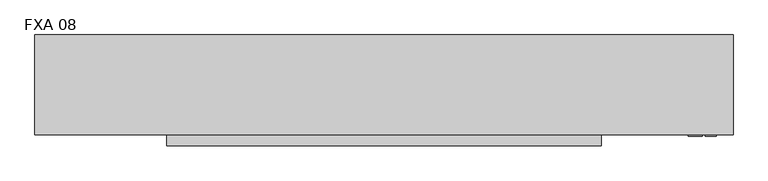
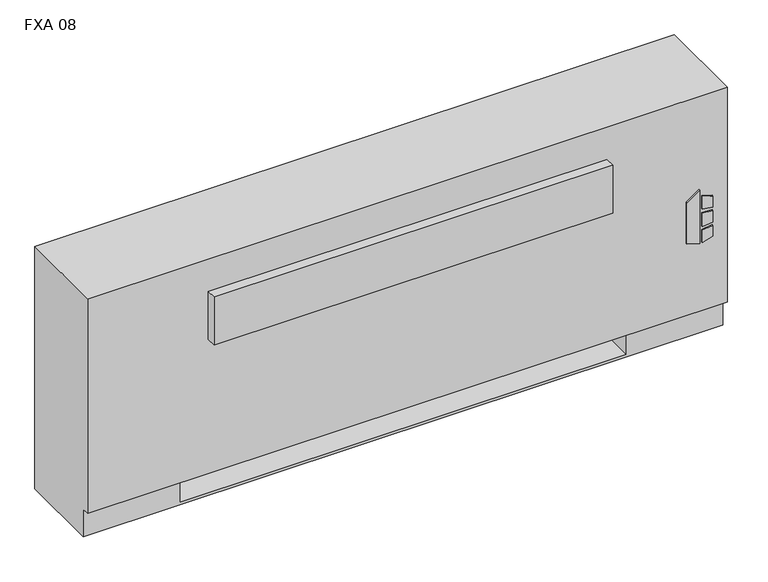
"""IFC4 building model written with IfcOpenShell, lengths in millimetres: proxy geometry, Vertical_Fan_Coil_Unit_-_FXA_-_IEC_-_2-Pipe_FS-FR_LH_2022 : FXA 08."""

from ifc_helpers import new_model, si_unit, point, frame, frame_2d, origin, place, context, project, spatial, polyline, circle_curve, trimmed, segment, composite_curve, outline, extrude, source, transform, mapped, element, save
from ifc_brep_helpers import plane_surface, revolved_surface, advanced_brep


def fxa_08_6734b92f(model_context):
    return source(origin(), model_context, "Body", "SolidModel", [
        extrude(outline(polyline([(263.9480703, 849.3868862), (254.0, 881.5602728), (396.1709244, 881.5602728), (373.1489183, 849.3868862), (263.9480703, 849.3868862)])), frame((0.0, 12.7, 0.0), z_axis=(0.0, 1.0, 0.0), x_axis=(0.0, 0.0, 1.0)), (0.0, 0.0, 1.0), 3.175),
        extrude(outline(polyline([(342.9473557, 888.3186058), (339.7449632, 914.4), (368.9738042, 914.4), (377.0382193, 888.3186058), (342.9473557, 888.3186058)])), frame((0.0, 12.7, 0.0), z_axis=(0.0, 1.0, 0.0), x_axis=(0.0, 0.0, 1.0)), (0.0, 0.0, 1.0), 3.175),
        extrude(outline(polyline([(291.0838288, 914.4), (287.4183279, 888.3186058), (254.0, 888.3186058), (262.6342372, 914.4), (291.0838288, 914.4)])), frame((0.0, 12.7, 0.0), z_axis=(0.0, 1.0, 0.0), x_axis=(0.0, 0.0, 1.0)), (0.0, 0.0, 1.0), 3.175),
        extrude(outline(polyline([(330.3989903, 914.4), (332.6808166, 888.3186058), (296.7432681, 888.3186058), (299.4845331, 914.4), (330.3989903, 914.4)])), frame((0.0, 12.7, 0.0), z_axis=(0.0, 1.0, 0.0), x_axis=(0.0, 0.0, 1.0)), (0.0, 0.0, 1.0), 3.175),
        extrude(outline(polyline([(831.85, 223.266), (831.85, 81.534), (711.2, 81.534), (711.2, 223.266), (831.85, 223.266)])), frame((0.0, 0.0, 327.025), z_axis=(0.0, 0.0, 1.0), x_axis=(1.0, 0.0, 0.0)), (0.0, 0.0, 1.0), 260.35),
        extrude(outline(composite_curve([segment(trimmed(circle_curve(frame_2d((-469.9, 130.175)), 9.525), [point((-479.425, 130.175))], [point((-460.375, 130.175))], False, "CARTESIAN"), True, "CONTINUOUS"), segment(trimmed(circle_curve(frame_2d((-469.9, 130.175)), 9.525), [point((-460.375, 130.175))], [point((-479.425, 130.175))], False, "CARTESIAN"), True, "CONTINUOUS")], self_intersect=False)), frame((0.0, 0.0, 101.6), z_axis=(0.0, 0.0, 1.0), x_axis=(1.0, 0.0, 0.0)), (0.0, 0.0, 1.0), 25.4),
        extrude(outline(polyline([(-571.5, 63.5), (-571.5, 196.85), (-406.4, 196.85), (-406.4, 63.5), (-571.5, 63.5)])), frame((0.0, 0.0, 127.0), z_axis=(0.0, 0.0, 1.0), x_axis=(1.0, 0.0, 0.0)), (0.0, 0.0, 1.0), 50.8),
        extrude(outline(polyline([(650.875, -9.525), (-346.075, -9.525), (-346.075, 15.875), (650.875, 15.875), (650.875, -9.525)])), frame((0.0, 0.0, 428.625), z_axis=(0.0, 0.0, 1.0), x_axis=(1.0, 0.0, 0.0)), (0.0, 0.0, 1.0), 127.0),
        extrude(outline(composite_curve([segment(trimmed(circle_curve(frame_2d((93.1926, 485.5972)), 7.9375), [point((93.1926, 493.5347))], [point((93.1926, 477.6597))], False, "CARTESIAN"), True, "CONTINUOUS"), segment(trimmed(circle_curve(frame_2d((93.1926, 485.5972)), 7.9375), [point((93.1926, 477.6597))], [point((93.1926, 493.5347))], False, "CARTESIAN"), True, "CONTINUOUS")], self_intersect=False)), frame((-457.2, 0.0, 0.0), z_axis=(1.0, 0.0, 0.0), x_axis=(0.0, 1.0, 0.0)), (0.0, 0.0, 1.0), 50.8),
        extrude(outline(composite_curve([segment(trimmed(circle_curve(frame_2d((141.3002, 458.9526)), 7.9375), [point((141.3002, 466.8901))], [point((141.3002, 451.0151))], False, "CARTESIAN"), True, "CONTINUOUS"), segment(trimmed(circle_curve(frame_2d((141.3002, 458.9526)), 7.9375), [point((141.3002, 451.0151))], [point((141.3002, 466.8901))], False, "CARTESIAN"), True, "CONTINUOUS")], self_intersect=False)), frame((-457.2, 0.0, 0.0), z_axis=(1.0, 0.0, 0.0), x_axis=(0.0, 1.0, 0.0)), (0.0, 0.0, 1.0), 50.8),
        advanced_brep(
        [(952.5, 244.475, 641.35), (-647.7, 244.475, 641.35), (-647.7, 15.875, 641.35), (952.5, 15.875, 641.35), (-647.7, 244.475, 0.0), (952.5, 244.475, 0.0), (952.5, 34.925, 0.0), (-647.7, 34.925, 0.0), (711.2, 244.475, 73.025), (939.8, 244.475, 73.025), (939.8, 244.475, 628.65), (711.2, 244.475, 628.65), (711.2, 244.475, 414.8650565), (739.775, 244.475, 414.8650565), (739.775, 244.475, 385.2349435), (711.2, 244.475, 385.2349435), (711.2, 244.475, 287.3375), (739.775, 244.475, 287.3375), (739.775, 244.475, 258.7625), (711.2, 244.475, 258.7625), (711.2, 244.475, 141.2875), (739.775, 244.475, 141.2875), (739.775, 244.475, 112.7125), (711.2, 244.475, 112.7125), (-406.4, 244.475, 628.65), (-635.0, 244.475, 628.65), (-635.0, 244.475, 73.025), (-406.4, 244.475, 73.025), (-406.4, 244.475, 112.7125), (-434.975, 244.475, 112.7125), (-434.975, 244.475, 141.2875), (-406.4, 244.475, 141.2875), (-406.4, 244.475, 258.7625), (-434.975, 244.475, 258.7625), (-434.975, 244.475, 287.3375), (-406.4, 244.475, 287.3375), (-406.4, 244.475, 385.2349435), (-434.975, 244.475, 385.2349435), (-434.975, 244.475, 414.8650565), (-406.4, 244.475, 414.8650565), (729.4626, 244.475, 127.0), (718.3374, 244.475, 127.0), (729.4626, 244.475, 400.05), (718.3374, 244.475, 400.05), (729.4626, 244.475, 273.05), (718.3374, 244.475, 273.05), (-413.5374, 244.475, 127.0), (-424.6626, 244.475, 127.0), (-413.5374, 244.475, 273.05), (-424.6626, 244.475, 273.05), (-413.5374, 244.475, 400.05), (-424.6626, 244.475, 400.05), (-647.7, 34.925, 73.025), (-647.7, 15.875, 73.025), (952.5, 15.875, 73.025), (952.5, 34.925, 73.025), (-406.4, 34.925, 73.025), (-406.4, 219.075, 73.025), (711.2, 219.075, 73.025), (711.2, 34.925, 73.025), (711.2, 34.925, 6.35), (-406.4, 34.925, 6.35), (711.2, 41.275, 628.65), (939.8, 41.275, 628.65), (939.8, 41.275, 73.025), (711.2, 41.275, 73.025), (-406.4, 41.275, 628.65), (-406.4, 41.275, 73.025), (-635.0, 41.275, 73.025), (-635.0, 41.275, 628.65), (711.2, 219.075, 73.025), (711.2, 238.125, 112.7125), (711.2, 238.125, 141.2875), (711.2, 238.125, 258.7625), (711.2, 238.125, 287.3375), (711.2, 238.125, 385.2349435), (711.2, 238.125, 414.8650565), (-406.4, 219.075, 73.025), (-406.4, 238.125, 414.8650565), (-406.4, 238.125, 385.2349435), (-406.4, 238.125, 287.3375), (-406.4, 238.125, 258.7625), (-406.4, 238.125, 141.2875), (-406.4, 238.125, 112.7125), (-406.4, 219.075, 6.35), (711.2, 219.075, 6.35), (739.775, 238.125, 112.7125), (739.775, 238.125, 141.2875), (718.3374, 238.125, 127.0), (729.4626, 238.125, 127.0), (739.775, 238.125, 258.7625), (739.775, 238.125, 287.3375), (718.3374, 238.125, 273.05), (729.4626, 238.125, 273.05), (739.775, 238.125, 385.2349435), (739.775, 238.125, 414.8650565), (718.3374, 238.125, 400.05), (729.4626, 238.125, 400.05), (-434.975, 238.125, 141.2875), (-434.975, 238.125, 112.7125), (-424.6626, 238.125, 127.0), (-413.5374, 238.125, 127.0), (-434.975, 238.125, 287.3375), (-434.975, 238.125, 258.7625), (-424.6626, 238.125, 273.05), (-413.5374, 238.125, 273.05), (-434.975, 238.125, 414.8650565), (-434.975, 238.125, 385.2349435), (-424.6626, 238.125, 400.05), (-413.5374, 238.125, 400.05)],
        [
            (0, 1),
            (1, 2),
            (2, 3),
            (3, 0),
            (4, 5),
            (5, 6),
            (6, 7),
            (7, 4),
            (0, 5),
            (4, 1),
            (8, 9),
            (9, 10),
            (10, 11),
            (11, 12),
            (12, 13),
            (13, 14),
            (14, 15),
            (15, 16),
            (16, 17),
            (17, 18),
            (18, 19),
            (19, 20),
            (20, 21),
            (21, 22),
            (22, 23),
            (23, 8),
            (24, 25),
            (25, 26),
            (26, 27),
            (27, 28),
            (28, 29),
            (29, 30),
            (30, 31),
            (31, 32),
            (32, 33),
            (33, 34),
            (34, 35),
            (35, 36),
            (36, 37),
            (37, 38),
            (38, 39),
            (39, 24),
            (40, 41, circle_curve(frame((723.9, 244.475, 127.0), z_axis=(0.0, -1.0, 0.0), x_axis=(-1.0, 0.0, 0.0)), 5.5626)),
            (41, 40, circle_curve(frame((723.9, 244.475, 127.0), z_axis=(0.0, -1.0, 0.0), x_axis=(-1.0, 0.0, 0.0)), 5.5626)),
            (42, 43, circle_curve(frame((723.9, 244.475, 400.05), z_axis=(0.0, -1.0, 0.0), x_axis=(-1.0, 0.0, 0.0)), 5.5626)),
            (43, 42, circle_curve(frame((723.9, 244.475, 400.05), z_axis=(0.0, -1.0, 0.0), x_axis=(-1.0, 0.0, 0.0)), 5.5626)),
            (44, 45, circle_curve(frame((723.9, 244.475, 273.05), z_axis=(0.0, -1.0, 0.0), x_axis=(-1.0, 0.0, 0.0)), 5.5626)),
            (45, 44, circle_curve(frame((723.9, 244.475, 273.05), z_axis=(0.0, -1.0, 0.0), x_axis=(-1.0, 0.0, 0.0)), 5.5626)),
            (46, 47, circle_curve(frame((-419.1, 244.475, 127.0), z_axis=(0.0, -1.0, 0.0), x_axis=(-1.0, 0.0, 0.0)), 5.5626)),
            (47, 46, circle_curve(frame((-419.1, 244.475, 127.0), z_axis=(0.0, -1.0, 0.0), x_axis=(-1.0, 0.0, 0.0)), 5.5626)),
            (48, 49, circle_curve(frame((-419.1, 244.475, 273.05), z_axis=(0.0, -1.0, 0.0), x_axis=(-1.0, 0.0, 0.0)), 5.5626)),
            (49, 48, circle_curve(frame((-419.1, 244.475, 273.05), z_axis=(0.0, -1.0, 0.0), x_axis=(-1.0, 0.0, 0.0)), 5.5626)),
            (50, 51, circle_curve(frame((-419.1, 244.475, 400.05), z_axis=(0.0, -1.0, 0.0), x_axis=(-1.0, 0.0, 0.0)), 5.5626)),
            (51, 50, circle_curve(frame((-419.1, 244.475, 400.05), z_axis=(0.0, -1.0, 0.0), x_axis=(-1.0, 0.0, 0.0)), 5.5626)),
            (7, 52),
            (52, 53),
            (53, 2),
            (53, 54),
            (54, 3),
            (54, 55),
            (55, 6),
            (52, 56),
            (56, 57),
            (57, 58),
            (58, 59),
            (59, 55),
            (59, 60),
            (60, 61),
            (61, 56),
            (62, 63),
            (63, 64),
            (64, 65),
            (65, 62),
            (66, 67),
            (67, 68),
            (68, 69),
            (69, 66),
            (65, 70),
            (70, 8),
            (23, 71),
            (71, 72),
            (72, 20),
            (19, 73),
            (73, 74),
            (74, 16),
            (15, 75),
            (75, 76),
            (76, 12),
            (11, 62),
            (64, 9),
            (63, 10),
            (69, 25),
            (24, 66),
            (68, 26),
            (67, 77),
            (77, 27),
            (39, 78),
            (78, 79),
            (79, 36),
            (35, 80),
            (80, 81),
            (81, 32),
            (31, 82),
            (82, 83),
            (83, 28),
            (57, 84),
            (84, 85),
            (85, 58),
            (85, 60),
            (84, 61),
            (71, 86),
            (86, 87),
            (87, 72),
            (88, 89, circle_curve(frame((723.9, 238.125, 127.0), z_axis=(0.0, 1.0, 0.0), x_axis=(-1.0, 0.0, 0.0)), 5.5626)),
            (89, 88, circle_curve(frame((723.9, 238.125, 127.0), z_axis=(0.0, 1.0, 0.0), x_axis=(-1.0, 0.0, 0.0)), 5.5626)),
            (73, 90),
            (90, 91),
            (91, 74),
            (92, 93, circle_curve(frame((723.9, 238.125, 273.05), z_axis=(0.0, 1.0, 0.0), x_axis=(-1.0, 0.0, 0.0)), 5.5626)),
            (93, 92, circle_curve(frame((723.9, 238.125, 273.05), z_axis=(0.0, 1.0, 0.0), x_axis=(-1.0, 0.0, 0.0)), 5.5626)),
            (75, 94),
            (94, 95),
            (95, 76),
            (96, 97, circle_curve(frame((723.9, 238.125, 400.05), z_axis=(0.0, 1.0, 0.0), x_axis=(-1.0, 0.0, 0.0)), 5.5626)),
            (97, 96, circle_curve(frame((723.9, 238.125, 400.05), z_axis=(0.0, 1.0, 0.0), x_axis=(-1.0, 0.0, 0.0)), 5.5626)),
            (98, 99),
            (99, 83),
            (82, 98),
            (100, 101, circle_curve(frame((-419.1, 238.125, 127.0), z_axis=(0.0, 1.0, 0.0), x_axis=(-1.0, 0.0, 0.0)), 5.5626)),
            (101, 100, circle_curve(frame((-419.1, 238.125, 127.0), z_axis=(0.0, 1.0, 0.0), x_axis=(-1.0, 0.0, 0.0)), 5.5626)),
            (102, 103),
            (103, 81),
            (80, 102),
            (104, 105, circle_curve(frame((-419.1, 238.125, 273.05), z_axis=(0.0, 1.0, 0.0), x_axis=(-1.0, 0.0, 0.0)), 5.5626)),
            (105, 104, circle_curve(frame((-419.1, 238.125, 273.05), z_axis=(0.0, 1.0, 0.0), x_axis=(-1.0, 0.0, 0.0)), 5.5626)),
            (106, 107),
            (107, 79),
            (78, 106),
            (108, 109, circle_curve(frame((-419.1, 238.125, 400.05), z_axis=(0.0, 1.0, 0.0), x_axis=(-1.0, 0.0, 0.0)), 5.5626)),
            (109, 108, circle_curve(frame((-419.1, 238.125, 400.05), z_axis=(0.0, 1.0, 0.0), x_axis=(-1.0, 0.0, 0.0)), 5.5626)),
            (87, 21),
            (86, 22),
            (91, 17),
            (90, 18),
            (95, 13),
            (94, 14),
            (30, 98),
            (99, 29),
            (34, 102),
            (103, 33),
            (38, 106),
            (107, 37),
            (88, 41),
            (40, 89),
            (96, 43),
            (42, 97),
            (92, 45),
            (44, 93),
            (100, 47),
            (46, 101),
            (104, 49),
            (48, 105),
            (108, 51),
            (50, 109),
        ],
        [
            plane_surface(frame((-647.7, 244.475, 641.35), z_axis=(0.0, 0.0, 1.0), x_axis=(-1.0, 0.0, 0.0))),
            plane_surface(frame((-647.7, 244.475, 0.0), z_axis=(0.0, 0.0, -1.0), x_axis=(1.0, 0.0, 0.0))),
            plane_surface(frame((952.5, 244.475, 641.35), z_axis=(0.0, 1.0, 0.0), x_axis=(0.0, 0.0, -1.0))),
            plane_surface(frame((-647.7, 244.475, 641.35), z_axis=(-1.0, 0.0, 0.0), x_axis=(0.0, 0.0, -1.0))),
            plane_surface(frame((-647.7, 15.875, 641.35), z_axis=(0.0, -1.0, 0.0), x_axis=(0.0, 0.0, -1.0))),
            plane_surface(frame((952.5, 15.875, 641.35), z_axis=(1.0, 0.0, 0.0), x_axis=(0.0, 0.0, -1.0))),
            plane_surface(frame((-647.7, 15.875, 73.025), z_axis=(0.0, 0.0, -1.0), x_axis=(1.0, 0.0, 0.0))),
            plane_surface(frame((-647.7, 34.925, 73.025), z_axis=(0.0, -1.0, 0.0), x_axis=(1.0, 0.0, 0.0))),
            plane_surface(frame((711.2, 41.275, 628.65), z_axis=(0.0, 1.0, 0.0), x_axis=(0.0, 0.0, -1.0))),
            plane_surface(frame((711.2, 41.275, 628.65), z_axis=(1.0, 0.0, 0.0), x_axis=(0.0, 1.0, 0.0))),
            plane_surface(frame((711.2, 41.275, 73.025), z_axis=(0.0, 0.0, 1.0), x_axis=(0.0, 1.0, 0.0))),
            plane_surface(frame((939.8, 41.275, 73.025), z_axis=(-1.0, 0.0, 0.0), x_axis=(0.0, 1.0, 0.0))),
            plane_surface(frame((939.8, 41.275, 628.65), z_axis=(0.0, 0.0, -1.0), x_axis=(0.0, 1.0, 0.0))),
            plane_surface(frame((-406.4, 41.275, 628.65), z_axis=(0.0, 0.0, -1.0), x_axis=(0.0, 1.0, 0.0))),
            plane_surface(frame((-635.0, 41.275, 628.65), z_axis=(1.0, 0.0, 0.0), x_axis=(0.0, 1.0, 0.0))),
            plane_surface(frame((-635.0, 41.275, 73.025), z_axis=(0.0, 0.0, 1.0), x_axis=(0.0, 1.0, 0.0))),
            plane_surface(frame((-406.4, 41.275, 73.025), z_axis=(-1.0, 0.0, 0.0), x_axis=(0.0, 1.0, 0.0))),
            plane_surface(frame((711.2, 219.075, 73.025), z_axis=(0.0, -1.0, 0.0), x_axis=(0.0, 0.0, -1.0))),
            plane_surface(frame((711.2, 219.075, 73.025), z_axis=(-1.0, 0.0, 0.0), x_axis=(0.0, -1.0, 0.0))),
            plane_surface(frame((711.2, 219.075, 6.35), z_axis=(0.0, 0.0, 1.0), x_axis=(0.0, -1.0, 0.0))),
            plane_surface(frame((-406.4, 219.075, 6.35), z_axis=(1.0, 0.0, 0.0), x_axis=(0.0, -1.0, 0.0))),
            plane_surface(frame((739.775, 238.125, 141.2875), z_axis=(0.0, -1.0, 0.0), x_axis=(-1.0, 0.0, 0.0))),
            plane_surface(frame((711.2, 244.475, 141.2875), z_axis=(0.0, 0.0, 1.0), x_axis=(0.0, -1.0, 0.0))),
            plane_surface(frame((739.775, 244.475, 141.2875), z_axis=(1.0, 0.0, 0.0), x_axis=(0.0, -1.0, 0.0))),
            plane_surface(frame((739.775, 244.475, 112.7125), z_axis=(0.0, 0.0, -1.0), x_axis=(0.0, -1.0, 0.0))),
            plane_surface(frame((711.2, 244.475, 287.3375), z_axis=(0.0, 0.0, 1.0), x_axis=(0.0, -1.0, 0.0))),
            plane_surface(frame((739.775, 244.475, 287.3375), z_axis=(1.0, 0.0, 0.0), x_axis=(0.0, -1.0, 0.0))),
            plane_surface(frame((739.775, 244.475, 258.7625), z_axis=(0.0, 0.0, -1.0), x_axis=(0.0, -1.0, 0.0))),
            plane_surface(frame((711.2, 244.475, 414.8650565), z_axis=(0.0, 0.0, 1.0), x_axis=(0.0, -1.0, 0.0))),
            plane_surface(frame((739.775, 244.475, 414.8650565), z_axis=(1.0, 0.0, 0.0), x_axis=(0.0, -1.0, 0.0))),
            plane_surface(frame((739.775, 244.475, 385.2349435), z_axis=(0.0, 0.0, -1.0), x_axis=(0.0, -1.0, 0.0))),
            plane_surface(frame((-434.975, 244.475, 141.2875), z_axis=(0.0, 0.0, 1.0), x_axis=(0.0, -1.0, 0.0))),
            plane_surface(frame((-406.4, 244.475, 112.7125), z_axis=(0.0, 0.0, -1.0), x_axis=(0.0, -1.0, 0.0))),
            plane_surface(frame((-434.975, 244.475, 112.7125), z_axis=(-1.0, 0.0, 0.0), x_axis=(0.0, -1.0, 0.0))),
            plane_surface(frame((-434.975, 244.475, 287.3375), z_axis=(0.0, 0.0, 1.0), x_axis=(0.0, -1.0, 0.0))),
            plane_surface(frame((-406.4, 244.475, 258.7625), z_axis=(0.0, 0.0, -1.0), x_axis=(0.0, -1.0, 0.0))),
            plane_surface(frame((-434.975, 244.475, 258.7625), z_axis=(-1.0, 0.0, 0.0), x_axis=(0.0, -1.0, 0.0))),
            plane_surface(frame((-434.975, 244.475, 414.8650565), z_axis=(0.0, 0.0, 1.0), x_axis=(0.0, -1.0, 0.0))),
            plane_surface(frame((-406.4, 244.475, 385.2349435), z_axis=(0.0, 0.0, -1.0), x_axis=(0.0, -1.0, 0.0))),
            plane_surface(frame((-434.975, 244.475, 385.2349435), z_axis=(-1.0, 0.0, 0.0), x_axis=(0.0, -1.0, 0.0))),
            revolved_surface(polyline([(718.3374, 238.125, 127.0), (718.3374, 244.475, 127.0)]), (723.9, 244.475, 127.0), (0.0, -1.0, 0.0)),
            revolved_surface(polyline([(718.3374, 238.125, 400.05), (718.3374, 244.475, 400.05)]), (723.9, 244.475, 400.05), (0.0, -1.0, 0.0)),
            revolved_surface(polyline([(718.3374, 238.125, 273.05), (718.3374, 244.475, 273.05)]), (723.9, 244.475, 273.05), (0.0, -1.0, 0.0)),
            revolved_surface(polyline([(-424.6626, 238.125, 127.0), (-424.6626, 244.475, 127.0)]), (-419.1, 244.475, 127.0), (0.0, -1.0, 0.0)),
            revolved_surface(polyline([(-424.6626, 238.125, 273.05), (-424.6626, 244.475, 273.05)]), (-419.1, 244.475, 273.05), (0.0, -1.0, 0.0)),
            revolved_surface(polyline([(-424.6626, 238.125, 400.05), (-424.6626, 244.475, 400.05)]), (-419.1, 244.475, 400.05), (0.0, -1.0, 0.0)),
        ],
        [
            (0, [[1, 2, 3, 4]]),
            (1, [[5, 6, 7, 8]]),
            (2, [[-1, 9, -5, 10], [11, 12, 13, 14, 15, 16, 17, 18, 19, 20, 21, 22, 23, 24, 25, 26], [27, 28, 29, 30, 31, 32, 33, 34, 35, 36, 37, 38, 39, 40, 41, 42], [43, 44], [45, 46], [47, 48], [49, 50], [51, 52], [53, 54]]),
            (3, [[-2, -10, -8, 55, 56, 57]]),
            (4, [[-3, -57, 58, 59]]),
            (5, [[-4, -59, 60, 61, -6, -9]]),
            (6, [[-56, 62, 63, 64, 65, 66, -60, -58]]),
            (7, [[-7, -61, -66, 67, 68, 69, -62, -55]]),
            (8, [[70, 71, 72, 73]]),
            (8, [[74, 75, 76, 77]]),
            (9, [[-73, 78, 79, -26, 80, 81, 82, -22, 83, 84, 85, -18, 86, 87, 88, -14, 89]]),
            (10, [[-72, 90, -11, -79, -78]]),
            (11, [[-71, 91, -12, -90]]),
            (12, [[-70, -89, -13, -91]]),
            (13, [[-77, 92, -27, 93]]),
            (14, [[-76, 94, -28, -92]]),
            (15, [[-75, 95, 96, -29, -94]]),
            (16, [[-74, -93, -42, 97, 98, 99, -38, 100, 101, 102, -34, 103, 104, 105, -30, -96, -95]]),
            (17, [[-64, 106, 107, 108]]),
            (18, [[-108, 109, -67, -65]]),
            (19, [[-107, 110, -68, -109]]),
            (20, [[-106, -63, -69, -110]]),
            (21, [[111, 112, 113, -81], [114, 115]]),
            (21, [[116, 117, 118, -84], [119, 120]]),
            (21, [[121, 122, 123, -87], [124, 125]]),
            (21, [[126, 127, -104, 128], [129, 130]]),
            (21, [[131, 132, -101, 133], [134, 135]]),
            (21, [[136, 137, -98, 138], [139, 140]]),
            (22, [[-113, 141, -23, -82]]),
            (23, [[-112, 142, -24, -141]]),
            (24, [[-111, -80, -25, -142]]),
            (25, [[-118, 143, -19, -85]]),
            (26, [[-117, 144, -20, -143]]),
            (27, [[-116, -83, -21, -144]]),
            (28, [[-123, 145, -15, -88]]),
            (29, [[-122, 146, -16, -145]]),
            (30, [[-121, -86, -17, -146]]),
            (31, [[-128, -103, -33, 147]]),
            (32, [[-127, 148, -31, -105]]),
            (33, [[-126, -147, -32, -148]]),
            (34, [[-133, -100, -37, 149]]),
            (35, [[-132, 150, -35, -102]]),
            (36, [[-131, -149, -36, -150]]),
            (37, [[-138, -97, -41, 151]]),
            (38, [[-137, 152, -39, -99]]),
            (39, [[-136, -151, -40, -152]]),
            (40, [[153, -43, 154, -114]]),
            (40, [[-153, -115, -154, -44]]),
            (41, [[155, -45, 156, -124]]),
            (41, [[-155, -125, -156, -46]]),
            (42, [[157, -47, 158, -119]]),
            (42, [[-157, -120, -158, -48]]),
            (43, [[159, -49, 160, -129]]),
            (43, [[-159, -130, -160, -50]]),
            (44, [[161, -51, 162, -134]]),
            (44, [[-161, -135, -162, -52]]),
            (45, [[163, -53, 164, -139]]),
            (45, [[-163, -140, -164, -54]]),
        ],
    ),
    ])


if __name__ == "__main__":
    model = new_model("IFC4")
    model_context = context("Model", 3, world=origin())
    ifc_project = project(units=[si_unit("LENGTHUNIT", "METRE", prefix="MILLI")], contexts=[model_context])
    site = spatial("IfcSite", under=ifc_project)
    building = spatial("IfcBuilding", under=site)
    placement = place(None, origin())
    fxa_08_shape = fxa_08_6734b92f(model_context)
    element("IfcBuildingElementProxy", 1, Name="Vertical_Fan_Coil_Unit_-_FXA_-_IEC_-_2-Pipe_FS-FR_LH_2022 : FXA 08", ObjectType="Vertical_Fan_Coil_Unit_-_FXA_-_IEC_-_2-Pipe_FS-FR_LH_2022 : FXA 08", at=placement, inside=building, context=model_context, shape_type="MappedRepresentation", body=[
        mapped(fxa_08_shape, transform((0.0, 0.0, 0.0), x_axis=(1.0, 0.0, 0.0), y_axis=(0.0, 1.0, 0.0), z_axis=(0.0, 0.0, 1.0))),
    ])
    save(model, "model.ifc")
